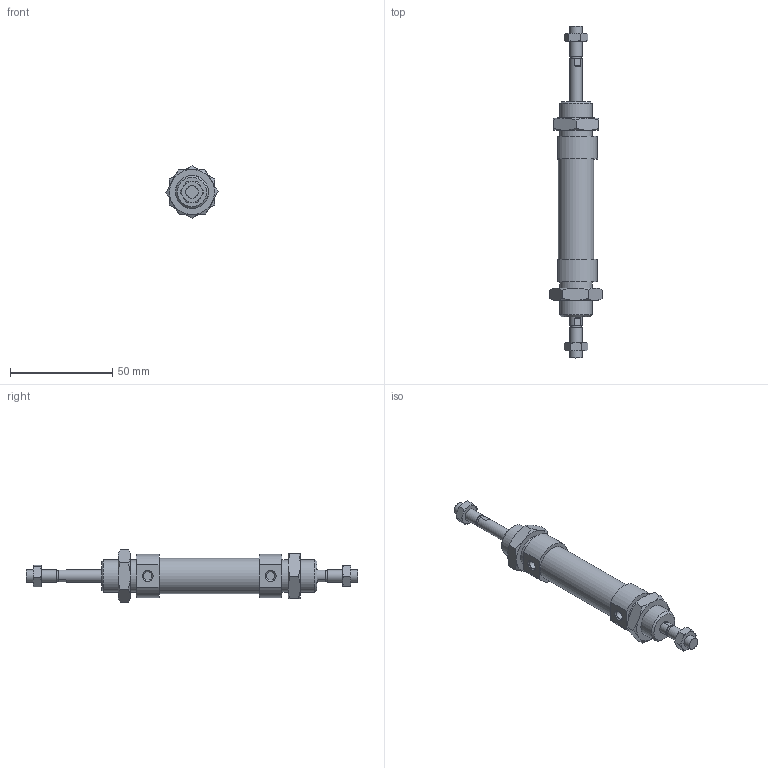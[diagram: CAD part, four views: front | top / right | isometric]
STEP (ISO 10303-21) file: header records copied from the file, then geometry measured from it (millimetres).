
FILE_DESCRIPTION((''),'2;1');
FILE_NAME('I:\Area Tecnica\Disegni\VARIE-3D\Componenti\1280\1282_##_####_#\1282_16_0015.iam.stp','2009-06-03T15:24:29',(''),(''),'Autodesk Inventor 2010','Autodesk Inventor 2010','');
FILE_SCHEMA(('AUTOMOTIVE_DESIGN { 1 0 10303 214 1 1 1 1 }'));
Length unit declared in the file: millimetre
Products named in the file (5): 1282_16_0015; C1282_16_15; S1282_16_15; 1200_16_05; 1200_16_06
Assembly tree (6 placements, depth 2):
  1282_16_0015
    C1282_16_15
    S1282_16_15
    1200_16_05  x2
    1200_16_06  x2
Bounding box: 25.4 x 162 x 25.4 mm (x, y, z)
Volume: 30441 mm3; surface area: 14749.4 mm2
Topology: 6 solids, 6 shells, 135 faces, 283 edges, 168 vertices
Faces by surface type: plane 56, cone 52, bspline 16, cylinder 11
Full cylindrical faces by diameter (mm): 5 x2, 6 x4, 16 x2, 17.2 x1
Entity records: 2543 total; most frequent: CARTESIAN_POINT 619, DIRECTION 358, ORIENTED_EDGE 316, AXIS2_PLACEMENT_3D 159, EDGE_CURVE 158, EDGE_LOOP 124, VERTEX_POINT 106, STYLED_ITEM 93
